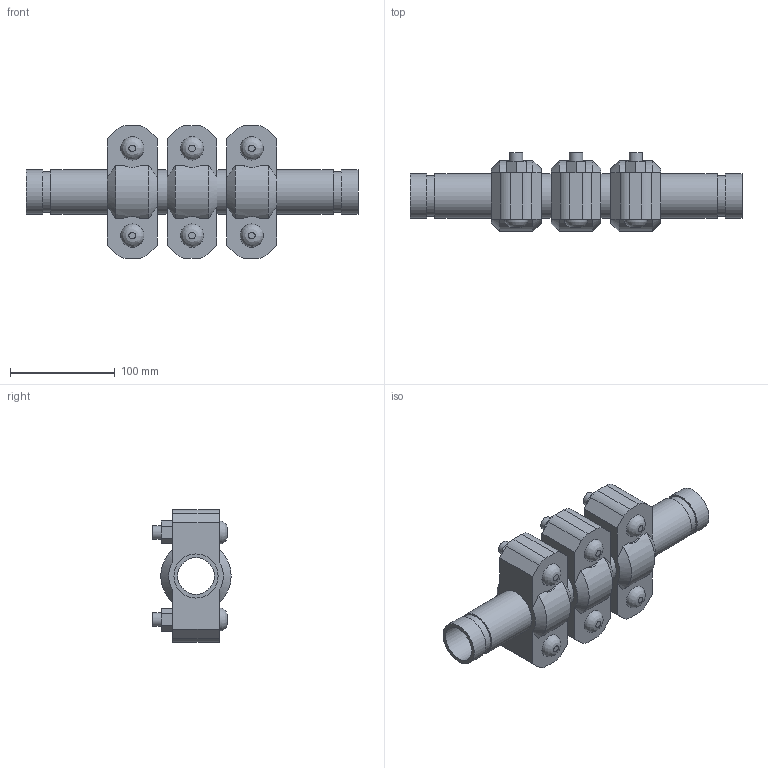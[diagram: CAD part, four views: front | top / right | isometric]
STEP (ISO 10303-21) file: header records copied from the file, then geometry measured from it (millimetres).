
FILE_DESCRIPTION(/* description */ ('VIC EXPANSION JOINT 3 COUPLINGS COMPRESSED STYLE 155 (OGS)','CAx-IF Rec.Pracs.---Representation and Presentation of Product Manufacturing Information (PMI)---4.0---2014-10-13'),/* implementation_level */ '2;1');
FILE_NAME(/* name */ 'C:\Users\kkamble\AppData\Roaming\Autodesk\ApplicationPlugins\Victaulic.Temp\A971\Victaulic_IPS_Expansion Joint_Compressed_3 Couplings_Style 155 (OGS)_1.25 (32).stp',/* time_stamp */ '2021-06-27T00:25:04+02:00',/* author */ ('kkamble'),/* organization */ ('Victaulic'),/* preprocessor_version */ 'ST-DEVELOPER v17.2',/* originating_system */ 'Autodesk Inventor 2019',/* authorisation */ '');
FILE_SCHEMA (('AP242_MANAGED_MODEL_BASED_3D_ENGINEERING_MIM_LF { 1 0 10303 442 1 1 4 }'));
Length unit declared in the file: inch
Products named in the file (4): 155-01.25; Nipple-01.25; Nipple-01.25_1; 077-01.25
Assembly tree (7 placements, depth 2):
  155-01.25
    Nipple-01.25  x2
    Nipple-01.25_1  x2
    077-01.25  x3
Bounding box: 317.5 x 74.93 x 127 mm (x, y, z)
Volume: 814915.7 mm3; surface area: 206012.1 mm2
Topology: 7 solids, 13 shells, 219 faces, 537 edges, 378 vertices
Faces by surface type: plane 126, cylinder 75, cone 12, bspline 6
Full cylindrical faces by diameter (mm): 12.7 x12, 14.605 x6, 35.052 x4, 38.989 x8, 42.164 x15
Entity records: 2843 total; most frequent: CARTESIAN_POINT 537, DIRECTION 459, ORIENTED_EDGE 398, EDGE_CURVE 199, AXIS2_PLACEMENT_3D 182, VERTEX_POINT 142, EDGE_LOOP 105, LINE 95
